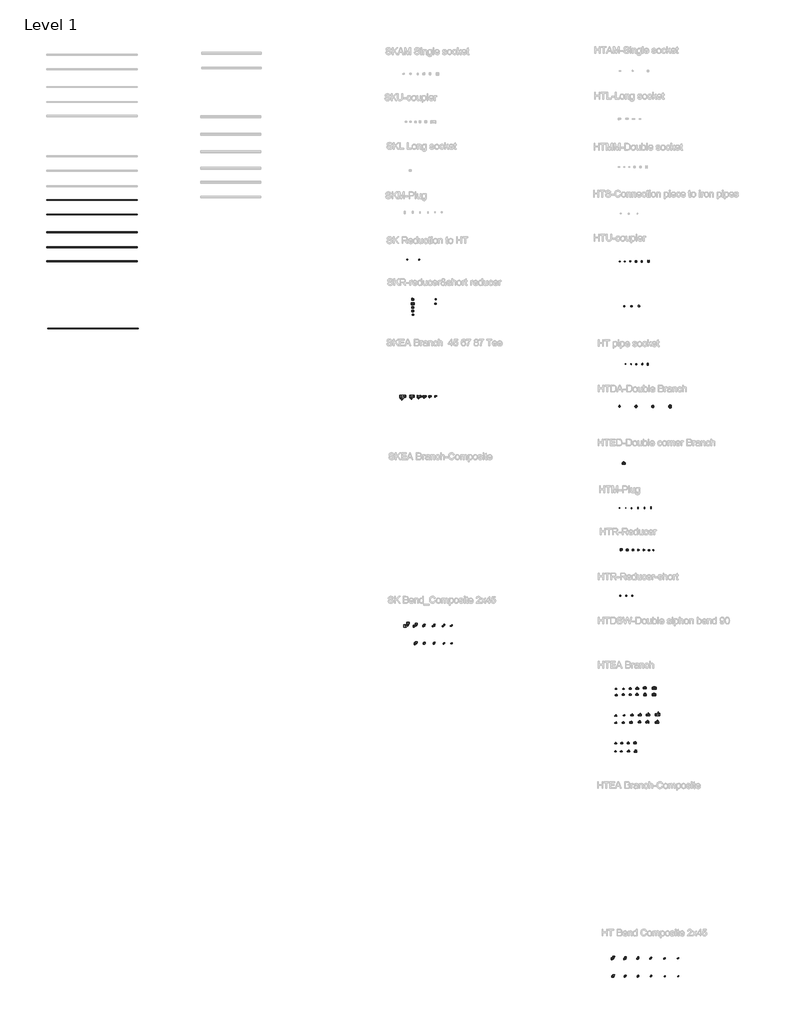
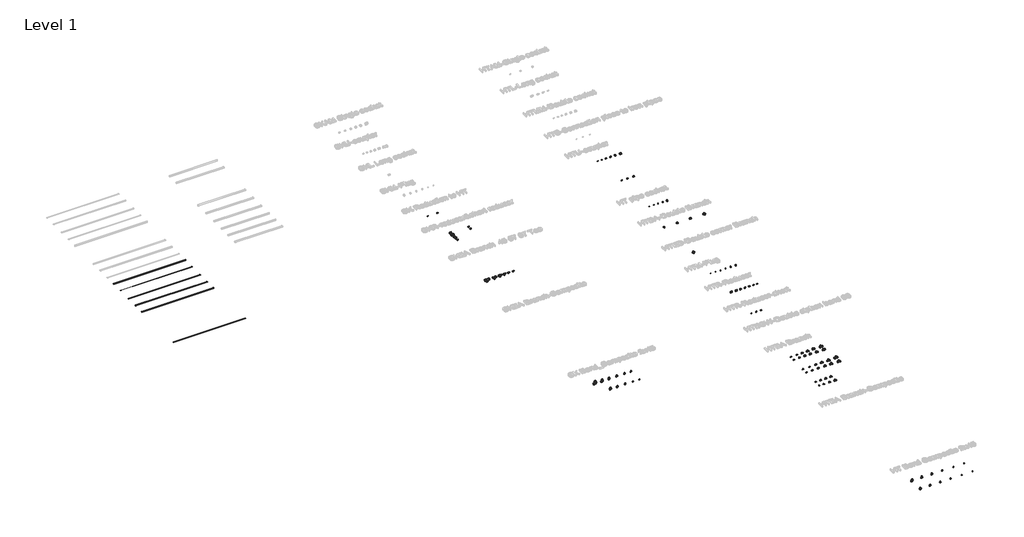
# One storey, part 1 of 29: 105 pipe fittings, 6 pipe segments.
"""IFC4 building model written with IfcOpenShell, lengths in millimetres."""

from ifc_helpers import new_model, si_unit, point, frame, frame_2d, origin, place, context, project, spatial, circle_curve, trimmed, segment, composite_curve, outline, extrude, transform, mapped, element, save
from components import pipe_fitting_b621045b, pipe_fitting_ceba5c8c, pipe_fitting_963da66b, pipe_fitting_d5d9e85b, pipe_fitting_ef411e22, pipe_fitting_05fc3727, pipe_fitting_0aba19ff, pipe_fitting_bc1e16e1, pipe_fitting_86bbdece, pipe_fitting_2cb091bc, pipe_fitting_1de20e53, pipe_fitting_7fe0ab3b, pipe_fitting_f28c39a5, pipe_fitting_736c5d36, pipe_fitting_3333814c, pipe_fitting_eab455b9, pipe_fitting_2ce4e05f, pipe_fitting_b7e72581, pipe_fitting_67dd1858, pipe_fitting_7535d88b, pipe_fitting_c7a28f41, pipe_fitting_61a857b8, pipe_fitting_6fccea22, pipe_fitting_032b0b43, pipe_fitting_e509aae5, pipe_fitting_b9e7a57b, pipe_fitting_ac66f9c2, pipe_fitting_7653bf81, pipe_fitting_2d5d71ce, pipe_fitting_af6664f6, pipe_fitting_25bed5f7, pipe_fitting_d5ad7a8b, pipe_fitting_74035c22, pipe_fitting_14c2af34, pipe_fitting_e70e33fe, pipe_fitting_8a57347c, pipe_fitting_e3336ed4, pipe_fitting_4569e667, pipe_fitting_04622c49, pipe_fitting_82743415, pipe_fitting_a5708cb5, pipe_fitting_f5a17043, pipe_fitting_7a552233, pipe_fitting_d9f46261, pipe_fitting_883b7029, pipe_fitting_bf3cede0, pipe_fitting_bdf820cf, pipe_fitting_07800d98, pipe_fitting_f1989bd6, pipe_fitting_6d47b2a5, pipe_fitting_aa2c47de, pipe_fitting_ebeeb04b, pipe_fitting_2b49e200, pipe_fitting_3d0b15dd, pipe_fitting_42958cf9, pipe_fitting_a100f701, pipe_fitting_673835c0, pipe_fitting_bbf15c4e, pipe_fitting_b7398156, pipe_fitting_d2e39f70, pipe_fitting_d4613a2e, pipe_fitting_e3276c1b, pipe_fitting_9d8878d9, pipe_fitting_e5fbb224, pipe_fitting_8b212066, pipe_fitting_8110d8d6, pipe_fitting_5896aef3, pipe_fitting_0097ce37, pipe_fitting_8ace9352, pipe_fitting_a345f261, pipe_fitting_acc12e6a, pipe_fitting_38ff0558, pipe_fitting_09b074f6, pipe_fitting_a1e51bce, pipe_fitting_3749d718, pipe_fitting_fd19a80a, pipe_fitting_190eae22, pipe_fitting_b59ebb63, pipe_fitting_4f30c85b, pipe_fitting_90e7f26e, pipe_fitting_d8c1b99f, pipe_fitting_b5ef0d84, pipe_fitting_f32bca7c, pipe_fitting_5cdc0576, pipe_fitting_02e017e1, pipe_fitting_76c013b8, pipe_fitting_b8992279, pipe_fitting_4ea62304, pipe_fitting_a99f8c45, pipe_fitting_f4127a96, pipe_fitting_8ddb3aa6, pipe_fitting_d37d2d62, pipe_fitting_de0aebfd, pipe_fitting_cda3bc95, pipe_fitting_81b5d95a, pipe_fitting_4f944cac, pipe_fitting_5af3efc3, pipe_fitting_56ec2b2d, pipe_fitting_47ed204c, pipe_fitting_301cb6e2, pipe_fitting_3ae46ea1, pipe_fitting_c8f16737, pipe_fitting_ba0c42a6, pipe_fitting_c4481aa6, pipe_fitting_a793d895

model = new_model("IFC4")

# Units and contexts
model_context = context("Model", 3, world=origin())
ifc_project = project(units=[si_unit("LENGTHUNIT", "METRE", prefix="MILLI")], contexts=[model_context])

# Site, building, storey
site = spatial("IfcSite", under=ifc_project)
building = spatial("IfcBuilding", under=site)
storey = spatial("IfcBuildingStorey", under=building, Name="Level 1", Elevation=0.0)

# Pipe fittings
placement = place(None, origin())
pipe_fitting_shape = pipe_fitting_b621045b(model_context)
element("IfcPipeFitting", 1, ObjectType="Superdrain SKR-short reducer : Superdrain SKR-short reducer", at=placement, inside=storey, context=model_context, shape_type="MappedRepresentation", body=[
    mapped(pipe_fitting_shape, transform((74.0763112, -5849.0379103, 0.0), x_axis=(-1.0, 0.0, 0.0), y_axis=(0.0, -1.0, 0.0), z_axis=(0.0, 0.0, 1.0))),
])
pipe_fitting_2_shape = pipe_fitting_ceba5c8c(model_context)
element("IfcPipeFitting", 2, ObjectType="Superdrain SKR-short reducer : Superdrain SKR-short reducer", at=placement, inside=storey, context=model_context, shape_type="MappedRepresentation", body=[
    mapped(pipe_fitting_2_shape, transform((4.9567852, -6243.4729925, 0.0), x_axis=(1.0, 0.0, 0.0), y_axis=(0.0, 1.0, 0.0), z_axis=(0.0, 0.0, 1.0))),
])
pipe_fitting_3_shape = pipe_fitting_963da66b(model_context)
element("IfcPipeFitting", 3, ObjectType="Superdrain HTU-coupler : Superdrain HTU-coupler", at=placement, inside=storey, context=model_context, shape_type="MappedRepresentation", body=[
    mapped(pipe_fitting_3_shape, transform((17178.1747155, -2429.0497962, 0.0), x_axis=(1.0, 0.0, 0.0), y_axis=(0.0, 1.0, 0.0), z_axis=(0.0, 0.0, 1.0))),
])
pipe_fitting_4_shape = pipe_fitting_d5d9e85b(model_context)
element("IfcPipeFitting", 4, ObjectType="Superdrain HTU-coupler : Superdrain HTU-coupler", at=placement, inside=storey, context=model_context, shape_type="MappedRepresentation", body=[
    mapped(pipe_fitting_4_shape, transform((17670.1314342, -2429.0497962, 0.0), x_axis=(1.0, 0.0, 0.0), y_axis=(0.0, 1.0, 0.0), z_axis=(0.0, 0.0, 1.0))),
])
pipe_fitting_5_shape = pipe_fitting_ef411e22(model_context)
element("IfcPipeFitting", 5, ObjectType="Superdrain HTU-coupler : Superdrain HTU-coupler", at=placement, inside=storey, context=model_context, shape_type="MappedRepresentation", body=[
    mapped(pipe_fitting_5_shape, transform((18182.4309778, -2429.0497962, 0.0), x_axis=(1.0, 0.0, 0.0), y_axis=(0.0, 1.0, 0.0), z_axis=(0.0, 0.0, 1.0))),
])
pipe_fitting_6_shape = pipe_fitting_05fc3727(model_context)
element("IfcPipeFitting", 6, ObjectType="Superdrain HTU-coupler : Superdrain HTU-coupler", at=placement, inside=storey, context=model_context, shape_type="MappedRepresentation", body=[
    mapped(pipe_fitting_6_shape, transform((18714.5561083, -2429.0497962, 0.0), x_axis=(1.0, 0.0, 0.0), y_axis=(0.0, 1.0, 0.0), z_axis=(0.0, 0.0, 1.0))),
])
pipe_fitting_7_shape = pipe_fitting_0aba19ff(model_context)
element("IfcPipeFitting", 7, ObjectType="Superdrain HTU-coupler : Superdrain HTU-coupler", at=placement, inside=storey, context=model_context, shape_type="MappedRepresentation", body=[
    mapped(pipe_fitting_7_shape, transform((19316.0888645, -2429.0497962, 0.0), x_axis=(1.0, 0.0, 0.0), y_axis=(0.0, 1.0, 0.0), z_axis=(0.0, 0.0, 1.0))),
])
pipe_fitting_8_shape = pipe_fitting_bc1e16e1(model_context)
element("IfcPipeFitting", 8, ObjectType="Superdrain SKR-Reducer : Superdrain SKR-Reducer", at=placement, inside=storey, context=model_context, shape_type="MappedRepresentation", body=[
    mapped(pipe_fitting_8_shape, transform((-1986.5721203, -7249.1944041, 0.0), x_axis=(1.0, 0.0, 0.0), y_axis=(0.0, 1.0, 0.0), z_axis=(0.0, 0.0, 1.0))),
])
pipe_fitting_9_shape = pipe_fitting_86bbdece(model_context)
element("IfcPipeFitting", 9, ObjectType="Superdrain SKR-Reducer : Superdrain SKR-Reducer", at=placement, inside=storey, context=model_context, shape_type="MappedRepresentation", body=[
    mapped(pipe_fitting_9_shape, transform((-2011.1081199, -6604.9732701, 0.0), x_axis=(1.0, 0.0, 0.0), y_axis=(0.0, 1.0, 0.0), z_axis=(0.0, 0.0, 1.0))),
])
pipe_fitting_10_shape = pipe_fitting_2cb091bc(model_context)
element("IfcPipeFitting", 10, ObjectType="Superdrain SKR-Reducer : Superdrain SKR-Reducer", at=placement, inside=storey, context=model_context, shape_type="MappedRepresentation", body=[
    mapped(pipe_fitting_10_shape, transform((-2000.9802372, -6914.1614462, 0.0), x_axis=(1.0, 0.0, 0.0), y_axis=(0.0, 1.0, 0.0), z_axis=(0.0, 0.0, 1.0))),
])
pipe_fitting_11_shape = pipe_fitting_1de20e53(model_context)
element("IfcPipeFitting", 11, ObjectType="Superdrain SKR-Reducer : Superdrain SKR-Reducer", at=placement, inside=storey, context=model_context, shape_type="MappedRepresentation", body=[
    mapped(pipe_fitting_11_shape, transform((-1987.5143677, -5860.0190698, 0.0), x_axis=(1.0, 0.0, 0.0), y_axis=(0.0, 1.0, 0.0), z_axis=(0.0, 0.0, 1.0))),
])
pipe_fitting_12_shape = pipe_fitting_7fe0ab3b(model_context)
element("IfcPipeFitting", 12, ObjectType="Superdrain SKR-Reducer : Superdrain SKR-Reducer", at=placement, inside=storey, context=model_context, shape_type="MappedRepresentation", body=[
    mapped(pipe_fitting_12_shape, transform((-1987.1100883, -6258.5095943, 0.0), x_axis=(1.0, 0.0, 0.0), y_axis=(0.0, 1.0, 0.0), z_axis=(0.0, 0.0, 1.0))),
])
pipe_fitting_13_shape = pipe_fitting_f28c39a5(model_context)
element("IfcPipeFitting", 13, ObjectType="Superdrain HTUG-Connection piece to cast-iron pipes : Superdrain HTUG-Connection piece to cast-iron pipes", at=placement, inside=storey, context=model_context, shape_type="MappedRepresentation", body=[
    mapped(pipe_fitting_13_shape, transform((17141.6289269, -6474.4361615, 0.0), x_axis=(1.0, 0.0, 0.0), y_axis=(0.0, 1.0, 0.0), z_axis=(0.0, 0.0, 1.0))),
])
pipe_fitting_14_shape = pipe_fitting_736c5d36(model_context)
element("IfcPipeFitting", 14, ObjectType="Superdrain HTUG-Connection piece to cast-iron pipes : Superdrain HTUG-Connection piece to cast-iron pipes", at=placement, inside=storey, context=model_context, shape_type="MappedRepresentation", body=[
    mapped(pipe_fitting_14_shape, transform((18486.9352266, -6474.4361615, 0.0), x_axis=(1.0, 0.0, 0.0), y_axis=(0.0, 1.0, 0.0), z_axis=(0.0, 0.0, 1.0))),
])
pipe_fitting_15_shape = pipe_fitting_3333814c(model_context)
element("IfcPipeFitting", 15, ObjectType="Superdrain SKEA Branch : Superdrain SKEA Branch", at=placement, inside=storey, context=model_context, shape_type="MappedRepresentation", body=[
    mapped(pipe_fitting_15_shape, transform((-1362.7865664, -14625.5901938, 0.0), x_axis=(-1.0, 0.0, 0.0), y_axis=(0.0, -1.0, 0.0), z_axis=(0.0, 0.0, 1.0))),
])
pipe_fitting_16_shape = pipe_fitting_eab455b9(model_context)
element("IfcPipeFitting", 16, ObjectType="Superdrain SKEA Branch : Superdrain SKEA Branch", at=placement, inside=storey, context=model_context, shape_type="MappedRepresentation", body=[
    mapped(pipe_fitting_16_shape, transform((-882.7709882, -14627.6707619, 0.0), x_axis=(-1.0, 0.0, 0.0), y_axis=(0.0, -1.0, 0.0), z_axis=(0.0, 0.0, 1.0))),
])
pipe_fitting_17_shape = pipe_fitting_2ce4e05f(model_context)
element("IfcPipeFitting", 17, ObjectType="Superdrain SKEA Branch : Superdrain SKEA Branch", at=placement, inside=storey, context=model_context, shape_type="MappedRepresentation", body=[
    mapped(pipe_fitting_17_shape, transform((-409.2514433, -14622.6351501, 0.0), x_axis=(-1.0, 0.0, 0.0), y_axis=(0.0, -1.0, 0.0), z_axis=(0.0, 0.0, 1.0))),
])
pipe_fitting_18_shape = pipe_fitting_b7e72581(model_context)
element("IfcPipeFitting", 18, ObjectType="Superdrain SKEA Branch : Superdrain SKEA Branch", at=placement, inside=storey, context=model_context, shape_type="MappedRepresentation", body=[
    mapped(pipe_fitting_18_shape, transform((97.8618446, -14610.8206915, 0.0), x_axis=(-1.0, 0.0, 0.0), y_axis=(0.0, -1.0, 0.0), z_axis=(0.0, 0.0, 1.0))),
])
pipe_fitting_19_shape = pipe_fitting_67dd1858(model_context)
element("IfcPipeFitting", 19, ObjectType="Superdrain SKEA Branch : Superdrain SKEA Branch", at=placement, inside=storey, context=model_context, shape_type="MappedRepresentation", body=[
    mapped(pipe_fitting_19_shape, transform((-1982.7865664, -14625.5901938, 0.0), x_axis=(-1.0, 0.0, 0.0), y_axis=(0.0, -1.0, 0.0), z_axis=(0.0, 0.0, 1.0))),
])
pipe_fitting_20_shape = pipe_fitting_7535d88b(model_context)
element("IfcPipeFitting", 20, ObjectType="Superdrain SKEA Branch : Superdrain SKEA Branch", at=placement, inside=storey, context=model_context, shape_type="MappedRepresentation", body=[
    mapped(pipe_fitting_20_shape, transform((-2802.7865664, -14625.5901938, 0.0), x_axis=(-1.0, 0.0, 0.0), y_axis=(0.0, -1.0, 0.0), z_axis=(0.0, 0.0, 1.0))),
])
pipe_fitting_21_shape = pipe_fitting_c7a28f41(model_context)
element("IfcPipeFitting", 21, ObjectType="Superdrain HT pipe socket : Superdrain HT pipe socket", at=placement, inside=storey, context=model_context, shape_type="MappedRepresentation", body=[
    mapped(pipe_fitting_21_shape, transform((17203.7987219, -11721.4891843, 0.0), x_axis=(1.0, 0.0, 0.0), y_axis=(0.0, 1.0, 0.0), z_axis=(0.0, 0.0, 1.0))),
])
pipe_fitting_22_shape = pipe_fitting_61a857b8(model_context)
element("IfcPipeFitting", 22, ObjectType="Superdrain HT pipe socket : Superdrain HT pipe socket", at=placement, inside=storey, context=model_context, shape_type="MappedRepresentation", body=[
    mapped(pipe_fitting_22_shape, transform((17723.9614939, -11721.4891843, 0.0), x_axis=(1.0, 0.0, 0.0), y_axis=(0.0, 1.0, 0.0), z_axis=(0.0, 0.0, 1.0))),
])
pipe_fitting_23_shape = pipe_fitting_6fccea22(model_context)
element("IfcPipeFitting", 23, ObjectType="Superdrain HT pipe socket : Superdrain HT pipe socket", at=placement, inside=storey, context=model_context, shape_type="MappedRepresentation", body=[
    mapped(pipe_fitting_23_shape, transform((18190.9043326, -11721.4891843, 0.0), x_axis=(1.0, 0.0, 0.0), y_axis=(0.0, 1.0, 0.0), z_axis=(0.0, 0.0, 1.0))),
])
pipe_fitting_24_shape = pipe_fitting_032b0b43(model_context)
element("IfcPipeFitting", 24, ObjectType="Superdrain HT pipe socket : Superdrain HT pipe socket", at=placement, inside=storey, context=model_context, shape_type="MappedRepresentation", body=[
    mapped(pipe_fitting_24_shape, transform((18722.7227813, -11721.4891843, 0.0), x_axis=(1.0, 0.0, 0.0), y_axis=(0.0, 1.0, 0.0), z_axis=(0.0, 0.0, 1.0))),
])
pipe_fitting_25_shape = pipe_fitting_e509aae5(model_context)
element("IfcPipeFitting", 25, ObjectType="Superdrain HT pipe socket : Superdrain HT pipe socket", at=placement, inside=storey, context=model_context, shape_type="MappedRepresentation", body=[
    mapped(pipe_fitting_25_shape, transform((19215.1672891, -11721.4891843, 0.0), x_axis=(1.0, 0.0, 0.0), y_axis=(0.0, 1.0, 0.0), z_axis=(0.0, 0.0, 1.0))),
])
pipe_fitting_26_shape = pipe_fitting_b9e7a57b(model_context)
element("IfcPipeFitting", 26, ObjectType="Superdrain HTDA-Double Branch : Superdrain HTDA-Double Branch", at=placement, inside=storey, context=model_context, shape_type="MappedRepresentation", body=[
    mapped(pipe_fitting_26_shape, transform((16683.9136594, -15531.7494421, 0.0), x_axis=(1.0, 0.0, 0.0), y_axis=(0.0, 1.0, 0.0), z_axis=(0.0, 0.0, 1.0))),
])
pipe_fitting_27_shape = pipe_fitting_ac66f9c2(model_context)
element("IfcPipeFitting", 27, ObjectType="Superdrain HTDA-Double Branch : Superdrain HTDA-Double Branch", at=placement, inside=storey, context=model_context, shape_type="MappedRepresentation", body=[
    mapped(pipe_fitting_27_shape, transform((18175.7806623, -15545.8915777, 0.0), x_axis=(1.0, 0.0, 0.0), y_axis=(0.0, 1.0, 0.0), z_axis=(0.0, 0.0, 1.0))),
])
pipe_fitting_28_shape = pipe_fitting_7653bf81(model_context)
element("IfcPipeFitting", 28, ObjectType="Superdrain HTDA-Double Branch : Superdrain HTDA-Double Branch", at=placement, inside=storey, context=model_context, shape_type="MappedRepresentation", body=[
    mapped(pipe_fitting_28_shape, transform((19680.7468134, -15543.5327339, 0.0), x_axis=(1.0, 0.0, 0.0), y_axis=(0.0, 1.0, 0.0), z_axis=(0.0, 0.0, 1.0))),
])
pipe_fitting_29_shape = pipe_fitting_2d5d71ce(model_context)
element("IfcPipeFitting", 29, ObjectType="Superdrain HTDA-Double Branch : Superdrain HTDA-Double Branch", at=placement, inside=storey, context=model_context, shape_type="MappedRepresentation", body=[
    mapped(pipe_fitting_29_shape, transform((21253.9863296, -15543.5327339, 0.0), x_axis=(1.0, 0.0, 0.0), y_axis=(0.0, 1.0, 0.0), z_axis=(0.0, 0.0, 1.0))),
])
pipe_fitting_30_shape = pipe_fitting_af6664f6(model_context)
element("IfcPipeFitting", 30, ObjectType="Superdrain HTED-Double corner Branch : Superdrain HTED-Double corner Branch", at=placement, inside=storey, context=model_context, shape_type="MappedRepresentation", body=[
    mapped(pipe_fitting_30_shape, transform((17060.2060533, -20713.0190851, 0.0), x_axis=(1.0, 0.0, 0.0), y_axis=(0.0, 1.0, 0.0), z_axis=(0.0, 0.0, 1.0))),
])
pipe_fitting_31_shape = pipe_fitting_25bed5f7(model_context)
element("IfcPipeFitting", 31, ObjectType="Superdrain HTM-Plug : Superdrain HTM-Plug", at=placement, inside=storey, context=model_context, shape_type="MappedRepresentation", body=[
    mapped(pipe_fitting_31_shape, transform((17251.4973858, -24731.0897256, 0.0), x_axis=(1.0, 0.0, 0.0), y_axis=(0.0, 1.0, 0.0), z_axis=(0.0, 0.0, 1.0))),
])
pipe_fitting_32_shape = pipe_fitting_d5ad7a8b(model_context)
element("IfcPipeFitting", 32, ObjectType="Superdrain HTM-Plug : Superdrain HTM-Plug", at=placement, inside=storey, context=model_context, shape_type="MappedRepresentation", body=[
    mapped(pipe_fitting_32_shape, transform((17783.0226997, -24737.8577108, 0.0), x_axis=(1.0, 0.0, 0.0), y_axis=(0.0, 1.0, 0.0), z_axis=(0.0, 0.0, 1.0))),
])
pipe_fitting_33_shape = pipe_fitting_74035c22(model_context)
element("IfcPipeFitting", 33, ObjectType="Superdrain HTM-Plug : Superdrain HTM-Plug", at=placement, inside=storey, context=model_context, shape_type="MappedRepresentation", body=[
    mapped(pipe_fitting_33_shape, transform((18369.3336634, -24723.8745421, 0.0), x_axis=(1.0, 0.0, 0.0), y_axis=(0.0, 1.0, 0.0), z_axis=(0.0, 0.0, 1.0))),
])
pipe_fitting_34_shape = pipe_fitting_14c2af34(model_context)
element("IfcPipeFitting", 34, ObjectType="Superdrain HTM-Plug : Superdrain HTM-Plug", at=placement, inside=storey, context=model_context, shape_type="MappedRepresentation", body=[
    mapped(pipe_fitting_34_shape, transform((18953.2230006, -24720.1521719, 0.0), x_axis=(1.0, 0.0, 0.0), y_axis=(0.0, 1.0, 0.0), z_axis=(0.0, 0.0, 1.0))),
])
pipe_fitting_35_shape = pipe_fitting_e70e33fe(model_context)
element("IfcPipeFitting", 35, ObjectType="Superdrain HTM-Plug : Superdrain HTM-Plug", at=placement, inside=storey, context=model_context, shape_type="MappedRepresentation", body=[
    mapped(pipe_fitting_35_shape, transform((19518.4781743, -24720.8940703, 0.0), x_axis=(1.0, 0.0, 0.0), y_axis=(0.0, 1.0, 0.0), z_axis=(0.0, 0.0, 1.0))),
])
pipe_fitting_36_shape = pipe_fitting_8a57347c(model_context)
element("IfcPipeFitting", 36, ObjectType="Superdrain HTR-Reducer : Superdrain HTR-Reducer", at=placement, inside=storey, context=model_context, shape_type="MappedRepresentation", body=[
    mapped(pipe_fitting_36_shape, transform((18407.4713943, -28523.7856885, 0.0), x_axis=(1.0, 0.0, 0.0), y_axis=(0.0, 1.0, 0.0), z_axis=(0.0, 0.0, 1.0))),
])
pipe_fitting_37_shape = pipe_fitting_e3336ed4(model_context)
element("IfcPipeFitting", 37, ObjectType="Superdrain HTR-Reducer : Superdrain HTR-Reducer", at=placement, inside=storey, context=model_context, shape_type="MappedRepresentation", body=[
    mapped(pipe_fitting_37_shape, transform((18893.7727168, -28529.9411468, 0.0), x_axis=(1.0, 0.0, 0.0), y_axis=(0.0, 1.0, 0.0), z_axis=(0.0, 0.0, 1.0))),
])
pipe_fitting_38_shape = pipe_fitting_4569e667(model_context)
element("IfcPipeFitting", 38, ObjectType="Superdrain HTR-Reducer : Superdrain HTR-Reducer", at=placement, inside=storey, context=model_context, shape_type="MappedRepresentation", body=[
    mapped(pipe_fitting_38_shape, transform((19773.4091133, -28546.7291471, 0.0), x_axis=(1.0, 0.0, 0.0), y_axis=(0.0, -1.0, 0.0), z_axis=(0.0, 0.0, -1.0))),
])
pipe_fitting_39_shape = pipe_fitting_04622c49(model_context)
element("IfcPipeFitting", 39, ObjectType="Superdrain HTR-Reducer : Superdrain HTR-Reducer", at=placement, inside=storey, context=model_context, shape_type="MappedRepresentation", body=[
    mapped(pipe_fitting_39_shape, transform((19351.2475387, -28547.6480148, 0.0), x_axis=(1.0, 0.0, 0.0), y_axis=(0.0, 1.0, 0.0), z_axis=(0.0, 0.0, 1.0))),
])
pipe_fitting_40_shape = pipe_fitting_82743415(model_context)
element("IfcPipeFitting", 40, ObjectType="Superdrain HTR-Reducer : Superdrain HTR-Reducer", at=placement, inside=storey, context=model_context, shape_type="MappedRepresentation", body=[
    mapped(pipe_fitting_40_shape, transform((17409.0829294, -28523.2112112, 0.0), x_axis=(1.0, 0.0, 0.0), y_axis=(0.0, 1.0, 0.0), z_axis=(0.0, 0.0, 1.0))),
])
pipe_fitting_41_shape = pipe_fitting_a5708cb5(model_context)
element("IfcPipeFitting", 41, ObjectType="Superdrain HTR-Reducer : Superdrain HTR-Reducer", at=placement, inside=storey, context=model_context, shape_type="MappedRepresentation", body=[
    mapped(pipe_fitting_41_shape, transform((17914.5980082, -28513.5301083, 0.0), x_axis=(1.0, 0.0, 0.0), y_axis=(0.0, 1.0, 0.0), z_axis=(0.0, 0.0, 1.0))),
])
pipe_fitting_42_shape = pipe_fitting_f5a17043(model_context)
element("IfcPipeFitting", 42, ObjectType="Superdrain HTR-Reducer : Superdrain HTR-Reducer", at=placement, inside=storey, context=model_context, shape_type="MappedRepresentation", body=[
    mapped(pipe_fitting_42_shape, transform((16861.4839425, -28498.6113801, 0.0), x_axis=(1.0, 0.0, 0.0), y_axis=(0.0, 1.0, 0.0), z_axis=(0.0, 0.0, 1.0))),
])
pipe_fitting_43_shape = pipe_fitting_7a552233(model_context)
element("IfcPipeFitting", 43, ObjectType="Superdrain HTR-Reducer-short : Superdrain HTR-Reducer-short", at=placement, inside=storey, context=model_context, shape_type="MappedRepresentation", body=[
    mapped(pipe_fitting_43_shape, transform((16718.6370095, -32667.5118688, 0.0), x_axis=(1.0, 0.0, 0.0), y_axis=(0.0, 1.0, 0.0), z_axis=(0.0, 0.0, 1.0))),
])
pipe_fitting_44_shape = pipe_fitting_d9f46261(model_context)
element("IfcPipeFitting", 44, ObjectType="Superdrain HTR-Reducer-short : Superdrain HTR-Reducer-short", at=placement, inside=storey, context=model_context, shape_type="MappedRepresentation", body=[
    mapped(pipe_fitting_44_shape, transform((17268.0126795, -32663.5863531, 0.0), x_axis=(1.0, 0.0, 0.0), y_axis=(0.0, 1.0, 0.0), z_axis=(0.0, 0.0, 1.0))),
])
pipe_fitting_45_shape = pipe_fitting_883b7029(model_context)
element("IfcPipeFitting", 45, ObjectType="Superdrain HTR-Reducer-short : Superdrain HTR-Reducer-short", at=placement, inside=storey, context=model_context, shape_type="MappedRepresentation", body=[
    mapped(pipe_fitting_45_shape, transform((17804.2861212, -32661.9546739, 0.0), x_axis=(1.0, 0.0, 0.0), y_axis=(0.0, 1.0, 0.0), z_axis=(0.0, 0.0, 1.0))),
])
pipe_fitting_46_shape = pipe_fitting_bf3cede0(model_context)
element("IfcPipeFitting", 46, ObjectType="Superdrain HTEA Branch : Superdrain HTEA Branch", at=placement, inside=storey, context=model_context, shape_type="MappedRepresentation", body=[
    mapped(pipe_fitting_46_shape, transform((16404.8225307, -41081.5538178, 0.0), x_axis=(1.0, 0.0, 0.0), y_axis=(0.0, 1.0, 0.0), z_axis=(0.0, 0.0, 1.0))),
])
pipe_fitting_47_shape = pipe_fitting_bdf820cf(model_context)
element("IfcPipeFitting", 47, ObjectType="Superdrain HTEA Branch : Superdrain HTEA Branch", at=placement, inside=storey, context=model_context, shape_type="MappedRepresentation", body=[
    mapped(pipe_fitting_47_shape, transform((17051.010951, -41089.6137641, 0.0), x_axis=(1.0, 0.0, 0.0), y_axis=(0.0, 1.0, 0.0), z_axis=(0.0, 0.0, 1.0))),
])
pipe_fitting_48_shape = pipe_fitting_07800d98(model_context)
element("IfcPipeFitting", 48, ObjectType="Superdrain HTEA Branch : Superdrain HTEA Branch", at=placement, inside=storey, context=model_context, shape_type="MappedRepresentation", body=[
    mapped(pipe_fitting_48_shape, transform((16408.2545074, -41662.8871581, 0.0), x_axis=(1.0, 0.0, 0.0), y_axis=(0.0, 1.0, 0.0), z_axis=(0.0, 0.0, 1.0))),
])
pipe_fitting_49_shape = pipe_fitting_f1989bd6(model_context)
element("IfcPipeFitting", 49, ObjectType="Superdrain HTEA Branch : Superdrain HTEA Branch", at=placement, inside=storey, context=model_context, shape_type="MappedRepresentation", body=[
    mapped(pipe_fitting_49_shape, transform((17035.6211328, -41635.7284055, 0.0), x_axis=(1.0, 0.0, 0.0), y_axis=(0.0, 1.0, 0.0), z_axis=(0.0, 0.0, 1.0))),
])
pipe_fitting_50_shape = pipe_fitting_6d47b2a5(model_context)
element("IfcPipeFitting", 50, ObjectType="Superdrain HTEA Branch : Superdrain HTEA Branch", at=placement, inside=storey, context=model_context, shape_type="MappedRepresentation", body=[
    mapped(pipe_fitting_50_shape, transform((17678.5693592, -41071.3719786, 0.0), x_axis=(1.0, 0.0, 0.0), y_axis=(0.0, 1.0, 0.0), z_axis=(0.0, 0.0, 1.0))),
])
pipe_fitting_51_shape = pipe_fitting_aa2c47de(model_context)
element("IfcPipeFitting", 51, ObjectType="Superdrain HTEA Branch : Superdrain HTEA Branch", at=placement, inside=storey, context=model_context, shape_type="MappedRepresentation", body=[
    mapped(pipe_fitting_51_shape, transform((17665.6202094, -41621.1280167, 0.0), x_axis=(1.0, 0.0, 0.0), y_axis=(0.0, 1.0, 0.0), z_axis=(0.0, 0.0, 1.0))),
])
pipe_fitting_52_shape = pipe_fitting_ebeeb04b(model_context)
element("IfcPipeFitting", 52, ObjectType="Superdrain HTEA Branch : Superdrain HTEA Branch", at=placement, inside=storey, context=model_context, shape_type="MappedRepresentation", body=[
    mapped(pipe_fitting_52_shape, transform((18285.771372, -41614.7917516, 0.0), x_axis=(1.0, 0.0, 0.0), y_axis=(0.0, 1.0, 0.0), z_axis=(0.0, 0.0, 1.0))),
])
pipe_fitting_53_shape = pipe_fitting_2b49e200(model_context)
element("IfcPipeFitting", 53, ObjectType="Superdrain HTEA Branch : Superdrain HTEA Branch", at=placement, inside=storey, context=model_context, shape_type="MappedRepresentation", body=[
    mapped(pipe_fitting_53_shape, transform((18306.3309594, -41072.0127039, 0.0), x_axis=(1.0, 0.0, 0.0), y_axis=(0.0, 1.0, 0.0), z_axis=(0.0, 0.0, 1.0))),
])
pipe_fitting_54_shape = pipe_fitting_3d0b15dd(model_context)
element("IfcPipeFitting", 54, ObjectType="Superdrain HTEA Branch : Superdrain HTEA Branch", at=placement, inside=storey, context=model_context, shape_type="MappedRepresentation", body=[
    mapped(pipe_fitting_54_shape, transform((19009.1237054, -41629.0742109, 0.0), x_axis=(1.0, 0.0, 0.0), y_axis=(0.0, 1.0, 0.0), z_axis=(0.0, 0.0, 1.0))),
])
pipe_fitting_55_shape = pipe_fitting_42958cf9(model_context)
element("IfcPipeFitting", 55, ObjectType="Superdrain HTEA Branch : Superdrain HTEA Branch", at=placement, inside=storey, context=model_context, shape_type="MappedRepresentation", body=[
    mapped(pipe_fitting_55_shape, transform((19822.051363, -41618.6191814, 0.0), x_axis=(1.0, 0.0, 0.0), y_axis=(0.0, 1.0, 0.0), z_axis=(0.0, 0.0, 1.0))),
])
pipe_fitting_56_shape = pipe_fitting_a100f701(model_context)
element("IfcPipeFitting", 56, ObjectType="Superdrain HTEA Branch : Superdrain HTEA Branch", at=placement, inside=storey, context=model_context, shape_type="MappedRepresentation", body=[
    mapped(pipe_fitting_56_shape, transform((19845.5126277, -41046.6200369, 0.0), x_axis=(1.0, 0.0, 0.0), y_axis=(0.0, 1.0, 0.0), z_axis=(0.0, 0.0, 1.0))),
])
pipe_fitting_57_shape = pipe_fitting_673835c0(model_context)
element("IfcPipeFitting", 57, ObjectType="Superdrain HTEA Branch : Superdrain HTEA Branch", at=placement, inside=storey, context=model_context, shape_type="MappedRepresentation", body=[
    mapped(pipe_fitting_57_shape, transform((16338.4070208, -43521.8912619, 0.0), x_axis=(1.0, 0.0, 0.0), y_axis=(0.0, 1.0, 0.0), z_axis=(0.0, 0.0, 1.0))),
])
pipe_fitting_58_shape = pipe_fitting_bbf15c4e(model_context)
element("IfcPipeFitting", 58, ObjectType="Superdrain HTEA Branch : Superdrain HTEA Branch", at=placement, inside=storey, context=model_context, shape_type="MappedRepresentation", body=[
    mapped(pipe_fitting_58_shape, transform((17079.3612448, -43511.53057, 0.0), x_axis=(1.0, 0.0, 0.0), y_axis=(0.0, 1.0, 0.0), z_axis=(0.0, 0.0, 1.0))),
])
pipe_fitting_59_shape = pipe_fitting_b7398156(model_context)
element("IfcPipeFitting", 59, ObjectType="Superdrain HTEA Branch : Superdrain HTEA Branch", at=placement, inside=storey, context=model_context, shape_type="MappedRepresentation", body=[
    mapped(pipe_fitting_59_shape, transform((16338.0441548, -44169.1645652, 0.0), x_axis=(1.0, 0.0, 0.0), y_axis=(0.0, 1.0, 0.0), z_axis=(0.0, 0.0, 1.0))),
])
pipe_fitting_60_shape = pipe_fitting_d2e39f70(model_context)
element("IfcPipeFitting", 60, ObjectType="Superdrain HTEA Branch : Superdrain HTEA Branch", at=placement, inside=storey, context=model_context, shape_type="MappedRepresentation", body=[
    mapped(pipe_fitting_60_shape, transform((16986.5147254, -44149.1935768, 0.0), x_axis=(1.0, 0.0, 0.0), y_axis=(0.0, 1.0, 0.0), z_axis=(0.0, 0.0, 1.0))),
])
pipe_fitting_61_shape = pipe_fitting_d4613a2e(model_context)
element("IfcPipeFitting", 61, ObjectType="Superdrain HTEA Branch : Superdrain HTEA Branch", at=placement, inside=storey, context=model_context, shape_type="MappedRepresentation", body=[
    mapped(pipe_fitting_61_shape, transform((17791.0503135, -43474.4710542, 0.0), x_axis=(1.0, 0.0, 0.0), y_axis=(0.0, 1.0, 0.0), z_axis=(0.0, 0.0, 1.0))),
])
pipe_fitting_62_shape = pipe_fitting_e3276c1b(model_context)
element("IfcPipeFitting", 62, ObjectType="Superdrain HTEA Branch : Superdrain HTEA Branch", at=placement, inside=storey, context=model_context, shape_type="MappedRepresentation", body=[
    mapped(pipe_fitting_62_shape, transform((18453.4233688, -44100.434778, 0.0), x_axis=(1.0, 0.0, 0.0), y_axis=(0.0, 1.0, 0.0), z_axis=(0.0, 0.0, 1.0))),
])
pipe_fitting_63_shape = pipe_fitting_9d8878d9(model_context)
element("IfcPipeFitting", 63, ObjectType="Superdrain HTEA Branch : Superdrain HTEA Branch", at=placement, inside=storey, context=model_context, shape_type="MappedRepresentation", body=[
    mapped(pipe_fitting_63_shape, transform((17688.8803619, -44124.6539151, 0.0), x_axis=(1.0, 0.0, 0.0), y_axis=(0.0, 1.0, 0.0), z_axis=(0.0, 0.0, 1.0))),
])
pipe_fitting_64_shape = pipe_fitting_e5fbb224(model_context)
element("IfcPipeFitting", 64, ObjectType="Superdrain HTEA Branch : Superdrain HTEA Branch", at=placement, inside=storey, context=model_context, shape_type="MappedRepresentation", body=[
    mapped(pipe_fitting_64_shape, transform((18474.43703, -43469.3156296, 0.0), x_axis=(1.0, 0.0, 0.0), y_axis=(0.0, 1.0, 0.0), z_axis=(0.0, 0.0, 1.0))),
])
pipe_fitting_65_shape = pipe_fitting_8b212066(model_context)
element("IfcPipeFitting", 65, ObjectType="Superdrain HTEA Branch : Superdrain HTEA Branch", at=placement, inside=storey, context=model_context, shape_type="MappedRepresentation", body=[
    mapped(pipe_fitting_65_shape, transform((19150.4543956, -44106.6393709, 0.0), x_axis=(1.0, 0.0, 0.0), y_axis=(0.0, 1.0, 0.0), z_axis=(0.0, 0.0, 1.0))),
])
pipe_fitting_66_shape = pipe_fitting_8110d8d6(model_context)
element("IfcPipeFitting", 66, ObjectType="Superdrain HTEA Branch : Superdrain HTEA Branch", at=placement, inside=storey, context=model_context, shape_type="MappedRepresentation", body=[
    mapped(pipe_fitting_66_shape, transform((20010.9270315, -44130.5002314, 0.0), x_axis=(1.0, 0.0, 0.0), y_axis=(0.0, 1.0, 0.0), z_axis=(0.0, 0.0, 1.0))),
])
pipe_fitting_67_shape = pipe_fitting_5896aef3(model_context)
element("IfcPipeFitting", 67, ObjectType="Superdrain HTEA Branch : Superdrain HTEA Branch", at=placement, inside=storey, context=model_context, shape_type="MappedRepresentation", body=[
    mapped(pipe_fitting_67_shape, transform((20075.0518312, -43425.6709166, 0.0), x_axis=(1.0, 0.0, 0.0), y_axis=(0.0, 1.0, 0.0), z_axis=(0.0, 0.0, 1.0))),
])
pipe_fitting_68_shape = pipe_fitting_0097ce37(model_context)
element("IfcPipeFitting", 68, ObjectType="Superdrain HTEA Branch : Superdrain HTEA Branch", at=placement, inside=storey, context=model_context, shape_type="MappedRepresentation", body=[
    mapped(pipe_fitting_68_shape, transform((16899.2904614, -46016.0197227, 0.0), x_axis=(1.0, 0.0, 0.0), y_axis=(0.0, 1.0, 0.0), z_axis=(0.0, 0.0, 1.0))),
])
pipe_fitting_69_shape = pipe_fitting_8ace9352(model_context)
element("IfcPipeFitting", 69, ObjectType="Superdrain HTEA Branch : Superdrain HTEA Branch", at=placement, inside=storey, context=model_context, shape_type="MappedRepresentation", body=[
    mapped(pipe_fitting_69_shape, transform((17474.4250065, -46005.9463959, 0.0), x_axis=(1.0, 0.0, 0.0), y_axis=(0.0, 1.0, 0.0), z_axis=(0.0, 0.0, 1.0))),
])
pipe_fitting_70_shape = pipe_fitting_a345f261(model_context)
element("IfcPipeFitting", 70, ObjectType="Superdrain HTEA Branch : Superdrain HTEA Branch", at=placement, inside=storey, context=model_context, shape_type="MappedRepresentation", body=[
    mapped(pipe_fitting_70_shape, transform((16353.3387037, -46016.4107251, 0.0), x_axis=(1.0, 0.0, 0.0), y_axis=(0.0, 1.0, 0.0), z_axis=(0.0, 0.0, 1.0))),
])
pipe_fitting_71_shape = pipe_fitting_acc12e6a(model_context)
element("IfcPipeFitting", 71, ObjectType="Superdrain HTEA Branch : Superdrain HTEA Branch", at=placement, inside=storey, context=model_context, shape_type="MappedRepresentation", body=[
    mapped(pipe_fitting_71_shape, transform((18075.4078639, -45995.6614148, 0.0), x_axis=(1.0, 0.0, 0.0), y_axis=(0.0, 1.0, 0.0), z_axis=(0.0, 0.0, 1.0))),
])
pipe_fitting_72_shape = pipe_fitting_38ff0558(model_context)
element("IfcPipeFitting", 72, ObjectType="Superdrain HTEA Branch : Superdrain HTEA Branch", at=placement, inside=storey, context=model_context, shape_type="MappedRepresentation", body=[
    mapped(pipe_fitting_72_shape, transform((16326.2088559, -46754.2217158, 0.0), x_axis=(1.0, 0.0, 0.0), y_axis=(0.0, 1.0, 0.0), z_axis=(0.0, 0.0, 1.0))),
])
pipe_fitting_73_shape = pipe_fitting_09b074f6(model_context)
element("IfcPipeFitting", 73, ObjectType="Superdrain HTEA Branch : Superdrain HTEA Branch", at=placement, inside=storey, context=model_context, shape_type="MappedRepresentation", body=[
    mapped(pipe_fitting_73_shape, transform((16846.1154218, -46762.2816621, 0.0), x_axis=(1.0, 0.0, 0.0), y_axis=(0.0, 1.0, 0.0), z_axis=(0.0, 0.0, 1.0))),
])
pipe_fitting_74_shape = pipe_fitting_a1e51bce(model_context)
element("IfcPipeFitting", 74, ObjectType="Superdrain HTEA Branch : Superdrain HTEA Branch", at=placement, inside=storey, context=model_context, shape_type="MappedRepresentation", body=[
    mapped(pipe_fitting_74_shape, transform((18127.7954179, -46769.6122895, 0.0), x_axis=(1.0, 0.0, 0.0), y_axis=(0.0, 1.0, 0.0), z_axis=(0.0, 0.0, 1.0))),
])
pipe_fitting_75_shape = pipe_fitting_3749d718(model_context)
element("IfcPipeFitting", 75, ObjectType="Superdrain HTEA Branch : Superdrain HTEA Branch", at=placement, inside=storey, context=model_context, shape_type="MappedRepresentation", body=[
    mapped(pipe_fitting_75_shape, transform((19214.43703, -43469.3156296, 0.0), x_axis=(1.0, 0.0, 0.0), y_axis=(0.0, 1.0, 0.0), z_axis=(0.0, 0.0, 1.0))),
])
pipe_fitting_76_shape = pipe_fitting_fd19a80a(model_context)
element("IfcPipeFitting", 76, ObjectType="Superdrain HTEA Branch : Superdrain HTEA Branch", at=placement, inside=storey, context=model_context, shape_type="MappedRepresentation", body=[
    mapped(pipe_fitting_76_shape, transform((18990.5862664, -41023.2896093, 0.0), x_axis=(1.0, 0.0, 0.0), y_axis=(0.0, 1.0, 0.0), z_axis=(0.0, 0.0, 1.0))),
])
pipe_fitting_77_shape = pipe_fitting_190eae22(model_context)
element("IfcPipeFitting", 77, ObjectType="Superdrain HTEA Branch : Superdrain HTEA Branch", at=placement, inside=storey, context=model_context, shape_type="MappedRepresentation", body=[
    mapped(pipe_fitting_77_shape, transform((17495.3737887, -46751.4190046, 0.0), x_axis=(1.0, 0.0, 0.0), y_axis=(0.0, 1.0, 0.0), z_axis=(0.0, 0.0, 1.0))),
])
pipe_fitting_78_shape = pipe_fitting_b59ebb63(model_context)
element("IfcPipeFitting", 78, ObjectType="Superdrain SK Bend_Composite 2x45 : Superdrain SK Bend_Composite 2x45", at=placement, inside=storey, context=model_context, shape_type="MappedRepresentation", body=[
    mapped(pipe_fitting_78_shape, transform((-2426.9588307, -35414.0795128, 0.0), x_axis=(1.0, 0.0, 0.0), y_axis=(0.0, 1.0, 0.0), z_axis=(0.0, 0.0, 1.0))),
])
pipe_fitting_79_shape = pipe_fitting_4f30c85b(model_context)
element("IfcPipeFitting", 79, ObjectType="Superdrain SK Bend_Composite 2x45 : Superdrain SK Bend_Composite 2x45", at=placement, inside=storey, context=model_context, shape_type="MappedRepresentation", body=[
    mapped(pipe_fitting_79_shape, transform((-1686.9588307, -35414.0795128, 0.0), x_axis=(1.0, 0.0, 0.0), y_axis=(0.0, 1.0, 0.0), z_axis=(0.0, 0.0, 1.0))),
])
pipe_fitting_80_shape = pipe_fitting_90e7f26e(model_context)
element("IfcPipeFitting", 80, ObjectType="Superdrain SK Bend_Composite 2x45 : Superdrain SK Bend_Composite 2x45", at=placement, inside=storey, context=model_context, shape_type="MappedRepresentation", body=[
    mapped(pipe_fitting_80_shape, transform((-926.9588307, -35414.0795128, 0.0), x_axis=(1.0, 0.0, 0.0), y_axis=(0.0, 1.0, 0.0), z_axis=(0.0, 0.0, 1.0))),
])
pipe_fitting_81_shape = pipe_fitting_d8c1b99f(model_context)
element("IfcPipeFitting", 81, ObjectType="Superdrain SK Bend_Composite 2x45 : Superdrain SK Bend_Composite 2x45", at=placement, inside=storey, context=model_context, shape_type="MappedRepresentation", body=[
    mapped(pipe_fitting_81_shape, transform((833.0411693, -35414.0795128, 0.0), x_axis=(1.0, 0.0, 0.0), y_axis=(0.0, 1.0, 0.0), z_axis=(0.0, 0.0, 1.0))),
])
pipe_fitting_82_shape = pipe_fitting_b5ef0d84(model_context)
element("IfcPipeFitting", 82, ObjectType="Superdrain SK Bend_Composite 2x45 : Superdrain SK Bend_Composite 2x45", at=placement, inside=storey, context=model_context, shape_type="MappedRepresentation", body=[
    mapped(pipe_fitting_82_shape, transform((1553.0411693, -35414.0795128, 0.0), x_axis=(1.0, 0.0, 0.0), y_axis=(0.0, 1.0, 0.0), z_axis=(0.0, 0.0, 1.0))),
])
pipe_fitting_83_shape = pipe_fitting_f32bca7c(model_context)
element("IfcPipeFitting", 83, ObjectType="Superdrain SK Bend_Composite 2x45 : Superdrain SK Bend_Composite 2x45", at=placement, inside=storey, context=model_context, shape_type="MappedRepresentation", body=[
    mapped(pipe_fitting_83_shape, transform((-1686.9588307, -36994.4503394, 0.0), x_axis=(1.0, 0.0, 0.0), y_axis=(0.0, 1.0, 0.0), z_axis=(0.0, 0.0, 1.0))),
])
pipe_fitting_84_shape = pipe_fitting_5cdc0576(model_context)
element("IfcPipeFitting", 84, ObjectType="Superdrain SK Bend_Composite 2x45 : Superdrain SK Bend_Composite 2x45", at=placement, inside=storey, context=model_context, shape_type="MappedRepresentation", body=[
    mapped(pipe_fitting_84_shape, transform((-926.9588307, -36994.4503394, 0.0), x_axis=(1.0, 0.0, 0.0), y_axis=(0.0, 1.0, 0.0), z_axis=(0.0, 0.0, 1.0))),
])
pipe_fitting_85_shape = pipe_fitting_02e017e1(model_context)
element("IfcPipeFitting", 85, ObjectType="Superdrain SK Bend_Composite 2x45 : Superdrain SK Bend_Composite 2x45", at=placement, inside=storey, context=model_context, shape_type="MappedRepresentation", body=[
    mapped(pipe_fitting_85_shape, transform((-46.9588307, -36994.4503394, 0.0), x_axis=(1.0, 0.0, 0.0), y_axis=(0.0, 1.0, 0.0), z_axis=(0.0, 0.0, 1.0))),
])
pipe_fitting_86_shape = pipe_fitting_76c013b8(model_context)
element("IfcPipeFitting", 86, ObjectType="Superdrain SK Bend_Composite 2x45 : Superdrain SK Bend_Composite 2x45", at=placement, inside=storey, context=model_context, shape_type="MappedRepresentation", body=[
    mapped(pipe_fitting_86_shape, transform((833.0411693, -36994.4503394, 0.0), x_axis=(1.0, 0.0, 0.0), y_axis=(0.0, 1.0, 0.0), z_axis=(0.0, 0.0, 1.0))),
])
pipe_fitting_87_shape = pipe_fitting_b8992279(model_context)
element("IfcPipeFitting", 87, ObjectType="Superdrain SK Bend_Composite 2x45 : Superdrain SK Bend_Composite 2x45", at=placement, inside=storey, context=model_context, shape_type="MappedRepresentation", body=[
    mapped(pipe_fitting_87_shape, transform((1553.0411693, -36994.4503394, 0.0), x_axis=(1.0, 0.0, 0.0), y_axis=(0.0, 1.0, 0.0), z_axis=(0.0, 0.0, 1.0))),
])
pipe_fitting_88_shape = pipe_fitting_4ea62304(model_context)
element("IfcPipeFitting", 88, ObjectType="Superdrain HT Bend Composite 2x45 : Superdrain HT Bend Composite 2x45", at=placement, inside=storey, context=model_context, shape_type="MappedRepresentation", body=[
    mapped(pipe_fitting_88_shape, transform((16163.5665049, -65502.6556302, 0.0), x_axis=(1.0, 0.0, 0.0), y_axis=(0.0, 1.0, 0.0), z_axis=(0.0, 0.0, 1.0))),
])
pipe_fitting_89_shape = pipe_fitting_a99f8c45(model_context)
element("IfcPipeFitting", 89, ObjectType="Superdrain HT Bend Composite 2x45 : Superdrain HT Bend Composite 2x45", at=placement, inside=storey, context=model_context, shape_type="MappedRepresentation", body=[
    mapped(pipe_fitting_89_shape, transform((17263.5665049, -65502.6556302, 0.0), x_axis=(1.0, 0.0, 0.0), y_axis=(0.0, 1.0, 0.0), z_axis=(0.0, 0.0, 1.0))),
])
pipe_fitting_90_shape = pipe_fitting_f4127a96(model_context)
element("IfcPipeFitting", 90, ObjectType="Superdrain HT Bend Composite 2x45 : Superdrain HT Bend Composite 2x45", at=placement, inside=storey, context=model_context, shape_type="MappedRepresentation", body=[
    mapped(pipe_fitting_90_shape, transform((19563.5665049, -65502.6556302, 0.0), x_axis=(1.0, 0.0, 0.0), y_axis=(0.0, 1.0, 0.0), z_axis=(0.0, 0.0, 1.0))),
])
pipe_fitting_91_shape = pipe_fitting_8ddb3aa6(model_context)
element("IfcPipeFitting", 91, ObjectType="Superdrain HT Bend Composite 2x45 : Superdrain HT Bend Composite 2x45", at=placement, inside=storey, context=model_context, shape_type="MappedRepresentation", body=[
    mapped(pipe_fitting_91_shape, transform((20823.5665049, -65502.6556302, 0.0), x_axis=(1.0, 0.0, 0.0), y_axis=(0.0, 1.0, 0.0), z_axis=(0.0, 0.0, 1.0))),
])
pipe_fitting_92_shape = pipe_fitting_d37d2d62(model_context)
element("IfcPipeFitting", 92, ObjectType="Superdrain HT Bend Composite 2x45 : Superdrain HT Bend Composite 2x45", at=placement, inside=storey, context=model_context, shape_type="MappedRepresentation", body=[
    mapped(pipe_fitting_92_shape, transform((22042.6252376, -65491.4001037, 0.0), x_axis=(1.0, 0.0, 0.0), y_axis=(0.0, 1.0, 0.0), z_axis=(0.0, 0.0, 1.0))),
])
pipe_fitting_93_shape = pipe_fitting_de0aebfd(model_context)
element("IfcPipeFitting", 93, ObjectType="Superdrain HT Bend Composite 2x45 : Superdrain HT Bend Composite 2x45", at=placement, inside=storey, context=model_context, shape_type="MappedRepresentation", body=[
    mapped(pipe_fitting_93_shape, transform((16163.5665049, -67102.6556302, 0.0), x_axis=(1.0, 0.0, 0.0), y_axis=(0.0, 1.0, 0.0), z_axis=(0.0, 0.0, 1.0))),
])
pipe_fitting_94_shape = pipe_fitting_cda3bc95(model_context)
element("IfcPipeFitting", 94, ObjectType="Superdrain HT Bend Composite 2x45 : Superdrain HT Bend Composite 2x45", at=placement, inside=storey, context=model_context, shape_type="MappedRepresentation", body=[
    mapped(pipe_fitting_94_shape, transform((17263.5665049, -67102.6556302, 0.0), x_axis=(1.0, 0.0, 0.0), y_axis=(0.0, 1.0, 0.0), z_axis=(0.0, 0.0, 1.0))),
])
pipe_fitting_95_shape = pipe_fitting_81b5d95a(model_context)
element("IfcPipeFitting", 95, ObjectType="Superdrain HT Bend Composite 2x45 : Superdrain HT Bend Composite 2x45", at=placement, inside=storey, context=model_context, shape_type="MappedRepresentation", body=[
    mapped(pipe_fitting_95_shape, transform((18403.5665049, -67102.6556302, 0.0), x_axis=(1.0, 0.0, 0.0), y_axis=(0.0, 1.0, 0.0), z_axis=(0.0, 0.0, 1.0))),
])
pipe_fitting_96_shape = pipe_fitting_4f944cac(model_context)
element("IfcPipeFitting", 96, ObjectType="Superdrain HT Bend Composite 2x45 : Superdrain HT Bend Composite 2x45", at=placement, inside=storey, context=model_context, shape_type="MappedRepresentation", body=[
    mapped(pipe_fitting_96_shape, transform((19563.5665049, -67102.6556302, 0.0), x_axis=(1.0, 0.0, 0.0), y_axis=(0.0, 1.0, 0.0), z_axis=(0.0, 0.0, 1.0))),
])
pipe_fitting_97_shape = pipe_fitting_5af3efc3(model_context)
element("IfcPipeFitting", 97, ObjectType="Superdrain HT Bend Composite 2x45 : Superdrain HT Bend Composite 2x45", at=placement, inside=storey, context=model_context, shape_type="MappedRepresentation", body=[
    mapped(pipe_fitting_97_shape, transform((20823.5665049, -67102.6556302, 0.0), x_axis=(1.0, 0.0, 0.0), y_axis=(0.0, 1.0, 0.0), z_axis=(0.0, 0.0, 1.0))),
])
pipe_fitting_98_shape = pipe_fitting_56ec2b2d(model_context)
element("IfcPipeFitting", 98, ObjectType="Superdrain HT Bend Composite 2x45 : Superdrain HT Bend Composite 2x45", at=placement, inside=storey, context=model_context, shape_type="MappedRepresentation", body=[
    mapped(pipe_fitting_98_shape, transform((22042.6252376, -67091.4001037, 0.0), x_axis=(1.0, 0.0, 0.0), y_axis=(0.0, 1.0, 0.0), z_axis=(0.0, 0.0, 1.0))),
])
pipe_fitting_99_shape = pipe_fitting_47ed204c(model_context)
element("IfcPipeFitting", 99, ObjectType="Superdrain SK Reduction to HT : Superdrain SK Reduction to HT", at=placement, inside=storey, context=model_context, shape_type="MappedRepresentation", body=[
    mapped(pipe_fitting_99_shape, transform((-2491.6633152, -2264.8388847, 0.0), x_axis=(1.0, 0.0, 0.0), y_axis=(0.0, 1.0, 0.0), z_axis=(0.0, 0.0, 1.0))),
])
pipe_fitting_100_shape = pipe_fitting_301cb6e2(model_context)
element("IfcPipeFitting", 100, ObjectType="Superdrain SK Reduction to HT : Superdrain SK Reduction to HT", at=placement, inside=storey, context=model_context, shape_type="MappedRepresentation", body=[
    mapped(pipe_fitting_100_shape, transform((-1411.6633152, -2264.8388847, 0.0), x_axis=(1.0, 0.0, 0.0), y_axis=(0.0, 1.0, 0.0), z_axis=(0.0, 0.0, 1.0))),
])
pipe_fitting_101_shape = pipe_fitting_3ae46ea1(model_context)
element("IfcPipeFitting", 101, ObjectType="Superdrain HTU-coupler : Superdrain HTU-coupler", at=placement, inside=storey, context=model_context, shape_type="MappedRepresentation", body=[
    mapped(pipe_fitting_101_shape, transform((16738.7130866, -2429.0497962, 0.0), x_axis=(1.0, 0.0, 0.0), y_axis=(0.0, 1.0, 0.0), z_axis=(0.0, 0.0, 1.0))),
])
pipe_fitting_102_shape = pipe_fitting_c8f16737(model_context)
element("IfcPipeFitting", 102, ObjectType="Superdrain HTM-Plug : Superdrain HTM-Plug", at=placement, inside=storey, context=model_context, shape_type="MappedRepresentation", body=[
    mapped(pipe_fitting_102_shape, transform((16687.0595929, -24716.065137, 0.0), x_axis=(1.0, 0.0, 0.0), y_axis=(0.0, 1.0, 0.0), z_axis=(0.0, 0.0, 1.0))),
])
pipe_fitting_103_shape = pipe_fitting_ba0c42a6(model_context)
element("IfcPipeFitting", 103, ObjectType="Superdrain HT Bend Composite 2x45 : Superdrain HT Bend Composite 2x45", at=placement, inside=storey, context=model_context, shape_type="MappedRepresentation", body=[
    mapped(pipe_fitting_103_shape, transform((18403.5665049, -65502.6556302, 0.0), x_axis=(1.0, 0.0, 0.0), y_axis=(0.0, 1.0, 0.0), z_axis=(0.0, 0.0, 1.0))),
])
pipe_fitting_104_shape = pipe_fitting_c4481aa6(model_context)
element("IfcPipeFitting", 104, ObjectType="Superdrain SK Bend_Composite 2x45 : Superdrain SK Bend_Composite 2x45", at=placement, inside=storey, context=model_context, shape_type="MappedRepresentation", body=[
    mapped(pipe_fitting_104_shape, transform((-46.9588307, -35414.0795128, 0.0), x_axis=(1.0, 0.0, 0.0), y_axis=(0.0, 1.0, 0.0), z_axis=(0.0, 0.0, 1.0))),
])
pipe_fitting_105_shape = pipe_fitting_a793d895(model_context)
element("IfcPipeFitting", 105, ObjectType="Superdrain HTUG-Connection piece to cast-iron pipes : Superdrain HTUG-Connection piece to cast-iron pipes", at=placement, inside=storey, context=model_context, shape_type="MappedRepresentation", body=[
    mapped(pipe_fitting_105_shape, transform((17781.7746755, -6474.4361615, 0.0), x_axis=(1.0, 0.0, 0.0), y_axis=(0.0, 1.0, 0.0), z_axis=(0.0, 0.0, 1.0))),
])

# Pipe segments
element("IfcPipeSegment", 106, ObjectType="Superdrain Plain Ended pipe HTGL - 5000 mm", at=placement, inside=storey, context=model_context, shape_type="SweptSolid", body=[
    extrude(outline(composite_curve([segment(trimmed(circle_curve(frame_2d((-8501.9469506, 0.0)), 25.0), [point((-8526.9469506, 0.0))], [point((-8501.9469506, 25.0))], False, "CARTESIAN"), True, "CONTINUOUS"), segment(trimmed(circle_curve(frame_2d((-8501.9469506, 0.0)), 25.0), [point((-8501.9469506, 25.0))], [point((-8476.9469506, 0.0))], False, "CARTESIAN"), True, "CONTINUOUS"), segment(trimmed(circle_curve(frame_2d((-8501.9469506, 0.0)), 25.0), [point((-8476.9469506, 0.0))], [point((-8501.9469506, -25.0))], False, "CARTESIAN"), True, "CONTINUOUS"), segment(trimmed(circle_curve(frame_2d((-8501.9469506, 0.0)), 25.0), [point((-8501.9469506, -25.0))], [point((-8526.9469506, 0.0))], False, "CARTESIAN"), True, "CONTINUOUS")], self_intersect=False)), frame((-35028.0189655, 0.0, 0.0), z_axis=(1.0, 0.0, 0.0), x_axis=(0.0, 1.0, 0.0)), (0.0, 0.0, 1.0), 8200.0),
])
element("IfcPipeSegment", 107, ObjectType="Superdrain Double socket pipe HTEM - 750 mm", at=placement, inside=storey, context=model_context, shape_type="SweptSolid", body=[
    extrude(outline(composite_curve([segment(trimmed(circle_curve(frame_2d((3134.8077482, 0.0)), 37.5), [point((3097.3077482, 0.0))], [point((3134.8077482, 37.5))], False, "CARTESIAN"), True, "CONTINUOUS"), segment(trimmed(circle_curve(frame_2d((3134.8077482, 0.0)), 37.5), [point((3134.8077482, 37.5))], [point((3172.3077482, 0.0))], False, "CARTESIAN"), True, "CONTINUOUS"), segment(trimmed(circle_curve(frame_2d((3134.8077482, 0.0)), 37.5), [point((3172.3077482, 0.0))], [point((3134.8077482, -37.5))], False, "CARTESIAN"), True, "CONTINUOUS"), segment(trimmed(circle_curve(frame_2d((3134.8077482, 0.0)), 37.5), [point((3134.8077482, -37.5))], [point((3097.3077482, 0.0))], False, "CARTESIAN"), True, "CONTINUOUS")], self_intersect=False)), frame((-35123.6590069, 0.0, 0.0), z_axis=(1.0, 0.0, 0.0), x_axis=(0.0, 1.0, 0.0)), (0.0, 0.0, 1.0), 8200.0),
])
element("IfcPipeSegment", 108, ObjectType="Superdrain Double socket pipe HTEM - 1000 mm", at=placement, inside=storey, context=model_context, shape_type="SweptSolid", body=[
    extrude(outline(composite_curve([segment(trimmed(circle_curve(frame_2d((1816.8720777, 0.0)), 16.0), [point((1800.8720777, 0.0))], [point((1816.8720777, 16.0))], False, "CARTESIAN"), True, "CONTINUOUS"), segment(trimmed(circle_curve(frame_2d((1816.8720777, 0.0)), 16.0), [point((1816.8720777, 16.0))], [point((1832.8720777, 0.0))], False, "CARTESIAN"), True, "CONTINUOUS"), segment(trimmed(circle_curve(frame_2d((1816.8720777, 0.0)), 16.0), [point((1832.8720777, 0.0))], [point((1816.8720777, -16.0))], False, "CARTESIAN"), True, "CONTINUOUS"), segment(trimmed(circle_curve(frame_2d((1816.8720777, 0.0)), 16.0), [point((1816.8720777, -16.0))], [point((1800.8720777, 0.0))], False, "CARTESIAN"), True, "CONTINUOUS")], self_intersect=False)), frame((-35123.6590069, 0.0, 0.0), z_axis=(1.0, 0.0, 0.0), x_axis=(0.0, 1.0, 0.0)), (0.0, 0.0, 1.0), 8200.0),
])
element("IfcPipeSegment", 109, ObjectType="Superdrain Double socket pipe HTEM - 1500 mm", at=placement, inside=storey, context=model_context, shape_type="SweptSolid", body=[
    extrude(outline(composite_curve([segment(trimmed(circle_curve(frame_2d((202.2933771, 0.0)), 37.5), [point((164.7933771, 0.0))], [point((202.2933771, 37.5))], False, "CARTESIAN"), True, "CONTINUOUS"), segment(trimmed(circle_curve(frame_2d((202.2933771, 0.0)), 37.5), [point((202.2933771, 37.5))], [point((239.7933771, 0.0))], False, "CARTESIAN"), True, "CONTINUOUS"), segment(trimmed(circle_curve(frame_2d((202.2933771, 0.0)), 37.5), [point((239.7933771, 0.0))], [point((202.2933771, -37.5))], False, "CARTESIAN"), True, "CONTINUOUS"), segment(trimmed(circle_curve(frame_2d((202.2933771, 0.0)), 37.5), [point((202.2933771, -37.5))], [point((164.7933771, 0.0))], False, "CARTESIAN"), True, "CONTINUOUS")], self_intersect=False)), frame((-35123.6590069, 0.0, 0.0), z_axis=(1.0, 0.0, 0.0), x_axis=(0.0, 1.0, 0.0)), (0.0, 0.0, 1.0), 8200.0),
])
element("IfcPipeSegment", 110, ObjectType="Superdrain Double socket pipe HTEM - 2000 mm", at=placement, inside=storey, context=model_context, shape_type="SweptSolid", body=[
    extrude(outline(composite_curve([segment(trimmed(circle_curve(frame_2d((-1153.9945195, 0.0)), 37.5), [point((-1191.4945195, 0.0))], [point((-1153.9945195, 37.5))], False, "CARTESIAN"), True, "CONTINUOUS"), segment(trimmed(circle_curve(frame_2d((-1153.9945195, 0.0)), 37.5), [point((-1153.9945195, 37.5))], [point((-1116.4945195, 0.0))], False, "CARTESIAN"), True, "CONTINUOUS"), segment(trimmed(circle_curve(frame_2d((-1153.9945195, 0.0)), 37.5), [point((-1116.4945195, 0.0))], [point((-1153.9945195, -37.5))], False, "CARTESIAN"), True, "CONTINUOUS"), segment(trimmed(circle_curve(frame_2d((-1153.9945195, 0.0)), 37.5), [point((-1153.9945195, -37.5))], [point((-1191.4945195, 0.0))], False, "CARTESIAN"), True, "CONTINUOUS")], self_intersect=False)), frame((-35123.6590069, 0.0, 0.0), z_axis=(1.0, 0.0, 0.0), x_axis=(0.0, 1.0, 0.0)), (0.0, 0.0, 1.0), 8200.0),
])
element("IfcPipeSegment", 111, ObjectType="Superdrain Double socket pipe HTEM - 3000 mm", at=placement, inside=storey, context=model_context, shape_type="SweptSolid", body=[
    extrude(outline(composite_curve([segment(trimmed(circle_curve(frame_2d((-2416.6806493, 0.0)), 37.5), [point((-2454.1806493, 0.0))], [point((-2416.6806493, 37.5))], False, "CARTESIAN"), True, "CONTINUOUS"), segment(trimmed(circle_curve(frame_2d((-2416.6806493, 0.0)), 37.5), [point((-2416.6806493, 37.5))], [point((-2379.1806493, 0.0))], False, "CARTESIAN"), True, "CONTINUOUS"), segment(trimmed(circle_curve(frame_2d((-2416.6806493, 0.0)), 37.5), [point((-2379.1806493, 0.0))], [point((-2416.6806493, -37.5))], False, "CARTESIAN"), True, "CONTINUOUS"), segment(trimmed(circle_curve(frame_2d((-2416.6806493, 0.0)), 37.5), [point((-2416.6806493, -37.5))], [point((-2454.1806493, 0.0))], False, "CARTESIAN"), True, "CONTINUOUS")], self_intersect=False)), frame((-35123.6590069, 0.0, 0.0), z_axis=(1.0, 0.0, 0.0), x_axis=(0.0, 1.0, 0.0)), (0.0, 0.0, 1.0), 8200.0),
])

save(model, "model.ifc")
